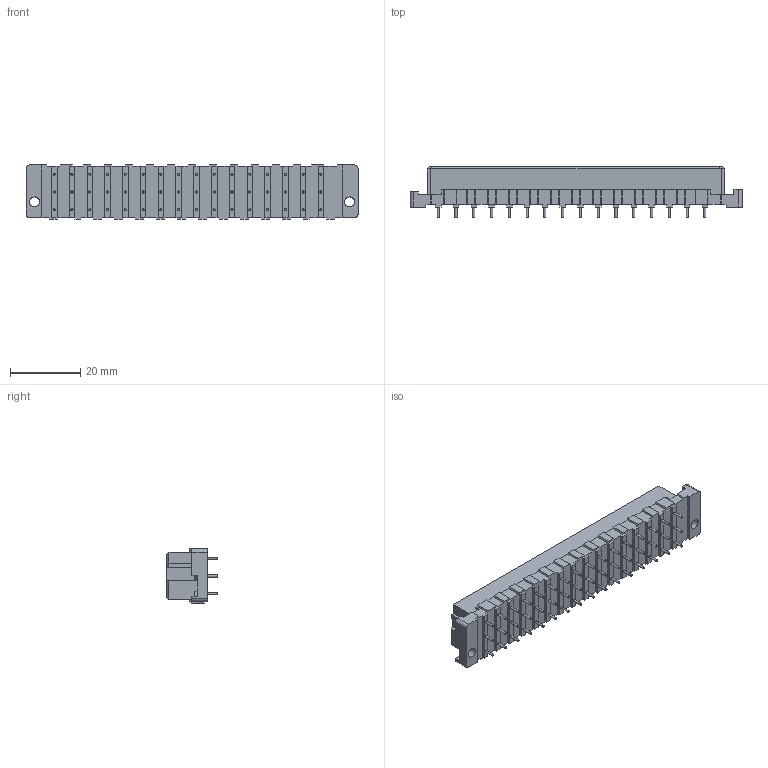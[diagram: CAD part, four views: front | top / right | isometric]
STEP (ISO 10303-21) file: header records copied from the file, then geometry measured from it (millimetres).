
FILE_DESCRIPTION(/* description */ (''),/* implementation_level */ '2;1');
FILE_NAME(/* name */ '100889967ugm000_a.stp',/* time_stamp */ '2022-04-26T16:32:31+02:00',/* author */ (''),/* organization */ (''),/* preprocessor_version */ 'ST-DEVELOPER v16.7',/* originating_system */ 'SIEMENS PLM Software NX 1911',/* authorisation */ '');
FILE_SCHEMA (('AUTOMOTIVE_DESIGN { 1 0 10303 214 3 1 1 1 }'));
Length unit declared in the file: millimetre
Products named in the file (1): 100889967ugm000_a
Bounding box: 94.85 x 14.45 x 15.45 mm (x, y, z)
Volume: 13393.3 mm3; surface area: 6059.1 mm2
Topology: 1 solids, 1 shells, 857 faces, 2235 edges, 1508 vertices
Faces by surface type: plane 579, cylinder 278
Full cylindrical faces by diameter (mm): 0.6 x48, 1.015 x32, 2.85 x2
Entity records: 25990 total; most frequent: CARTESIAN_POINT 5027, ORIENTED_EDGE 4238, DIRECTION 4007, EDGE_CURVE 2119, LINE 1563, VECTOR 1563, VERTEX_POINT 1474, AXIS2_PLACEMENT_3D 1222
